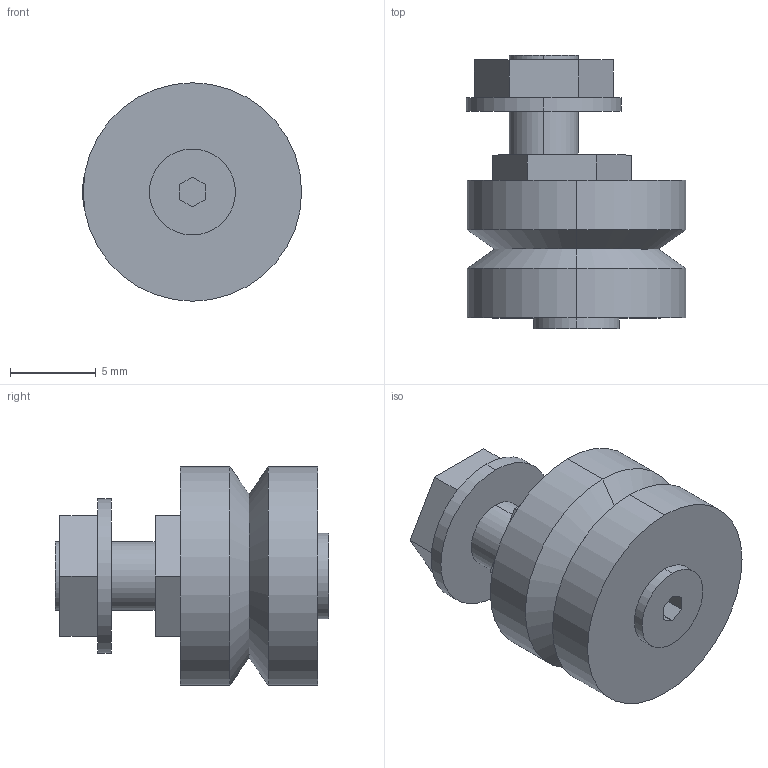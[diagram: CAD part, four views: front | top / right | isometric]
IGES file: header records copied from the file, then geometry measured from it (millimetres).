
Start section: 3D InterOp IGES (v. 2019 1.0.2), Spatial Corp. Copyright (c) 1999-2017.
Global section: file name: SJ 13 DENS.igs; native system: Spatial Corp.; preprocessor: 3D InterOp GENERIC/IGES 3.0; author: Noname; organization: Noname; date: 20220628.165355; units: millimetre
Bounding box: 12.75 x 15.9 x 12.7 mm (x, y, z)
Surface area: 888.5 mm2 (no closed solid volume)
Topology: 0 solids, 0 shells, 43 faces, 192 edges, 192 vertices
Faces by surface type: extrusion 27, revolution 16
